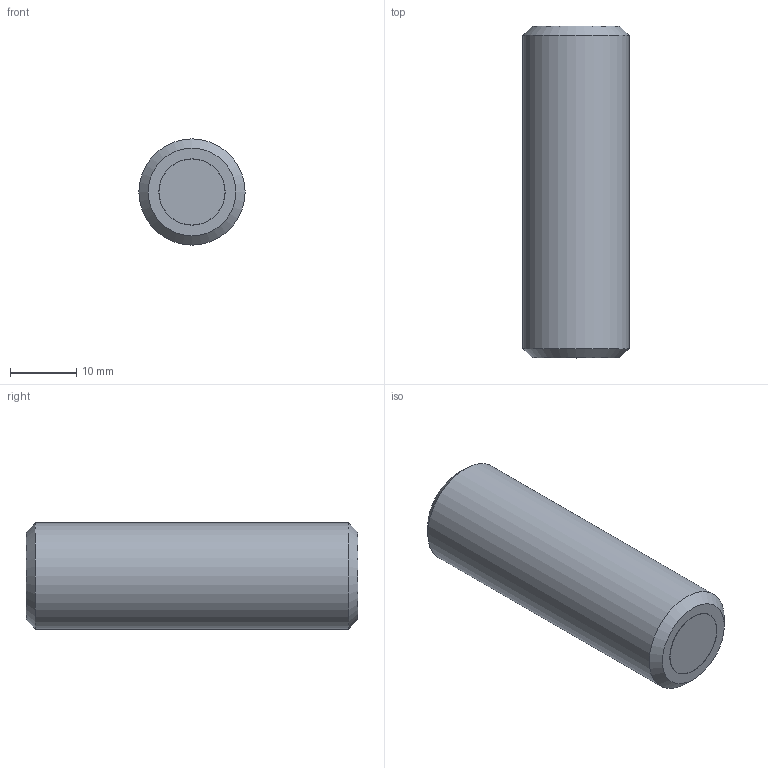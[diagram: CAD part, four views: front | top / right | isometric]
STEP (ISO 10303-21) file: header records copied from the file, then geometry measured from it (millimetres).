
FILE_DESCRIPTION(/* description */ ('STEP AP214'),/* implementation_level */ '2;1');
FILE_NAME(/* name */ 'Grub screw with retaining magnet GN 913.6-M16-50-ND',/* time_stamp */ '2023-10-03T11:28:22+02:00',/* author */ ('License CC BY-ND 4.0'),/* organization */ ('CADENAS'),/* preprocessor_version */ 'ST-DEVELOPER v19.3',/* originating_system */ 'PARTsolutions',/* authorisation */ ' ');
FILE_SCHEMA (('AUTOMOTIVE_DESIGN {1 0 10303 214 3 1 1}'));
Length unit declared in the file: millimetre
Products named in the file (1): Grub screw with retaining magnet GN 913.6-M16-50-ND
Bounding box: 16 x 50 x 16 mm (x, y, z)
Volume: 9498.2 mm3; surface area: 3048.6 mm2
Topology: 1 solids, 1 shells, 22 faces, 46 edges, 28 vertices
Faces by surface type: plane 16, cone 3, cylinder 3
Full cylindrical faces by diameter (mm): 9.96 x1, 10 x1, 16 x1
Entity records: 566 total; most frequent: DIRECTION 98, CARTESIAN_POINT 88, ORIENTED_EDGE 76, EDGE_CURVE 38, AXIS2_PLACEMENT_3D 37, FACE_BOUND 31, EDGE_LOOP 30, VERTEX_POINT 27
